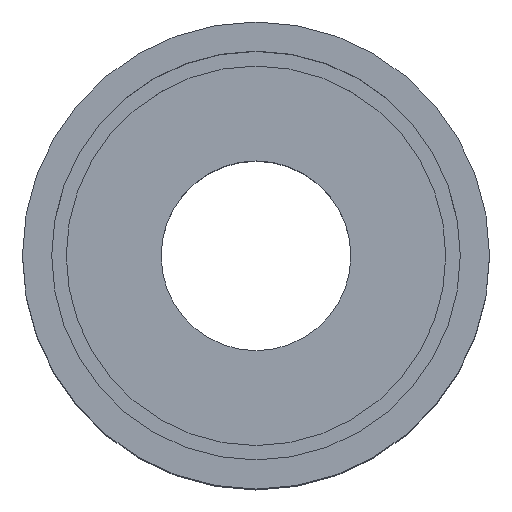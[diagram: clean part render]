
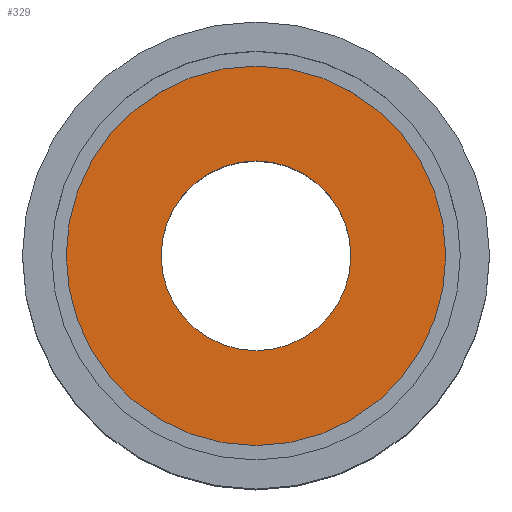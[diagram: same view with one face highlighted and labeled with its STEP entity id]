
A CAD part, top view. The second image highlights one B-rep face of the part: STEP entity #329.
In plain terms, the highlighted planar face has unit normal (0, 0, 1).
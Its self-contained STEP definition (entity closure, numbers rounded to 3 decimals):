
#1 = AXIS2_PLACEMENT_3D ( 'NONE', #443, #562, #614 ) ;
#20 = DIRECTION ( 'NONE',  ( 1., 0., 0. ) ) ;
#29 = CIRCLE ( 'NONE', #557, 6.5 ) ;
#40 = CARTESIAN_POINT ( 'NONE',  ( -6.5, 0., 7. ) ) ;
#68 = VERTEX_POINT ( 'NONE', #88 ) ;
#85 = CARTESIAN_POINT ( 'NONE',  ( 0., 0., 7. ) ) ;
#87 = ORIENTED_EDGE ( 'NONE', *, *, #620, .T. ) ;
#88 = CARTESIAN_POINT ( 'NONE',  ( 13., 0., 7. ) ) ;
#105 = AXIS2_PLACEMENT_3D ( 'NONE', #460, #668, #398 ) ;
#109 = VERTEX_POINT ( 'NONE', #40 ) ;
#119 = FACE_OUTER_BOUND ( 'NONE', #714, .T. ) ;
#127 = DIRECTION ( 'NONE',  ( 0., 0., 1. ) ) ;
#155 = EDGE_CURVE ( 'NONE', #68, #420, #470, .T. ) ;
#168 = ORIENTED_EDGE ( 'NONE', *, *, #473, .F. ) ;
#190 = DIRECTION ( 'NONE',  ( 0., 0., 1. ) ) ;
#231 = CARTESIAN_POINT ( 'NONE',  ( -13., 0., 7. ) ) ;
#292 = CIRCLE ( 'NONE', #509, 13. ) ;
#329 = ADVANCED_FACE ( 'NONE', ( #713, #119 ), #726, .T. ) ;
#347 = CIRCLE ( 'NONE', #368, 6.5 ) ;
#348 = EDGE_LOOP ( 'NONE', ( #402, #168 ) ) ;
#368 = AXIS2_PLACEMENT_3D ( 'NONE', #677, #127, #468 ) ;
#395 = CARTESIAN_POINT ( 'NONE',  ( 6.5, 0., 7. ) ) ;
#398 = DIRECTION ( 'NONE',  ( 1., 0., 0. ) ) ;
#402 = ORIENTED_EDGE ( 'NONE', *, *, #488, .F. ) ;
#407 = VERTEX_POINT ( 'NONE', #395 ) ;
#420 = VERTEX_POINT ( 'NONE', #231 ) ;
#443 = CARTESIAN_POINT ( 'NONE',  ( 0., 0., 7. ) ) ;
#460 = CARTESIAN_POINT ( 'NONE',  ( 0., 0., 7. ) ) ;
#468 = DIRECTION ( 'NONE',  ( 1., 0., 0. ) ) ;
#470 = CIRCLE ( 'NONE', #1, 13. ) ;
#473 = EDGE_CURVE ( 'NONE', #109, #407, #29, .T. ) ;
#488 = EDGE_CURVE ( 'NONE', #407, #109, #347, .T. ) ;
#509 = AXIS2_PLACEMENT_3D ( 'NONE', #85, #533, #20 ) ;
#528 = ORIENTED_EDGE ( 'NONE', *, *, #155, .T. ) ;
#533 = DIRECTION ( 'NONE',  ( 0., 0., 1. ) ) ;
#557 = AXIS2_PLACEMENT_3D ( 'NONE', #683, #190, #625 ) ;
#562 = DIRECTION ( 'NONE',  ( 0., 0., 1. ) ) ;
#614 = DIRECTION ( 'NONE',  ( 1., 0., 0. ) ) ;
#620 = EDGE_CURVE ( 'NONE', #420, #68, #292, .T. ) ;
#625 = DIRECTION ( 'NONE',  ( 1., 0., 0. ) ) ;
#668 = DIRECTION ( 'NONE',  ( 0., 0., 1. ) ) ;
#677 = CARTESIAN_POINT ( 'NONE',  ( 0., 0., 7. ) ) ;
#683 = CARTESIAN_POINT ( 'NONE',  ( 0., 0., 7. ) ) ;
#713 = FACE_BOUND ( 'NONE', #348, .T. ) ;
#714 = EDGE_LOOP ( 'NONE', ( #87, #528 ) ) ;
#726 = PLANE ( 'NONE',  #105 ) ;
